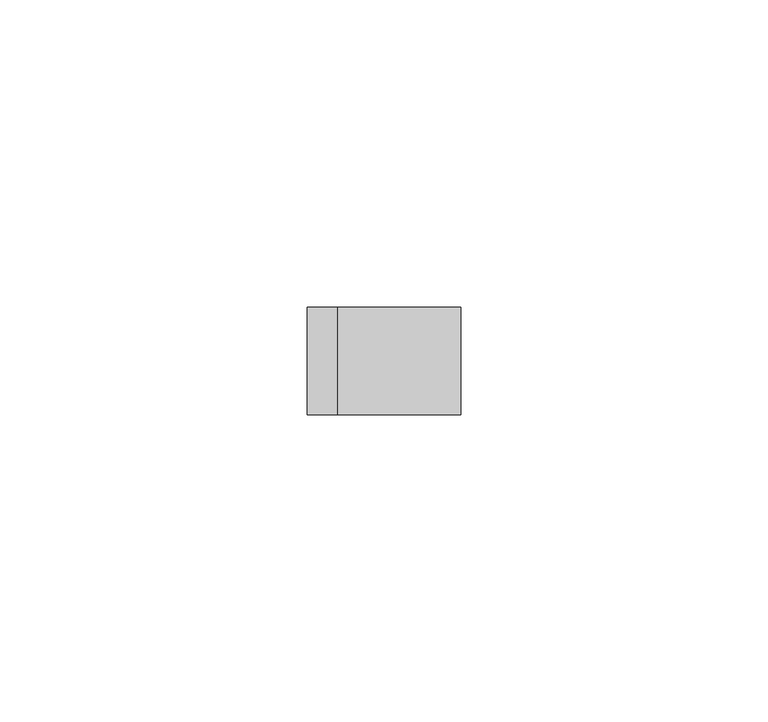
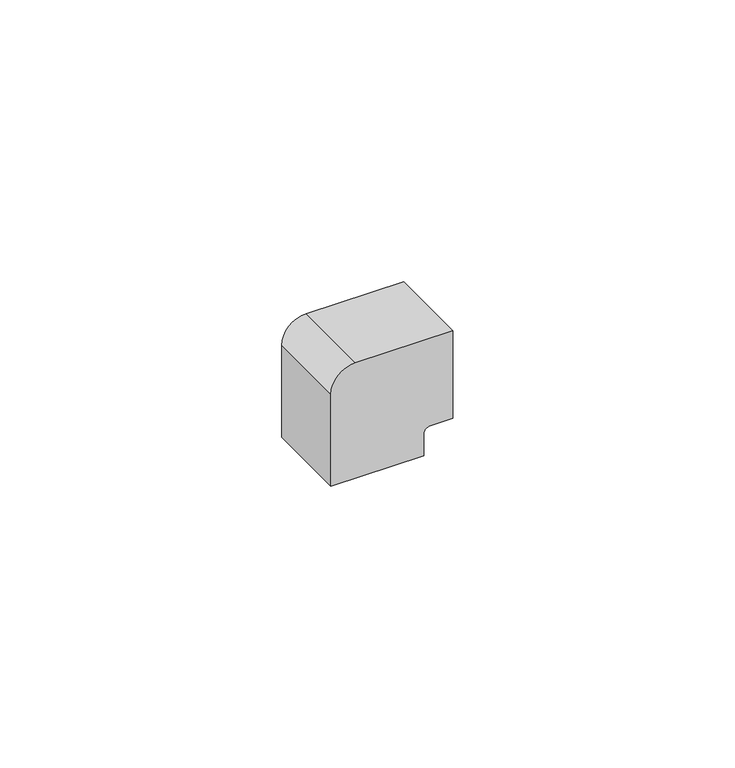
"""IFC4 building model written with IfcOpenShell, lengths in millimetres: proxy geometry, Поворот_на_90_гр.КМП : Поворот на 90 гр. КМП 16х16."""

from ifc_helpers import new_model, si_unit, point, frame, frame_2d, origin, place, context, project, spatial, polyline, circle_curve, trimmed, segment, composite_curve, outline, extrude, source, transform, mapped, element, save


def generic_models_debb7f3b(model_context):
    return source(origin(), model_context, "Body", "SweptSolid", [
        extrude(outline(composite_curve([segment(polyline([(2.0580612, -6.0), (6.7438905, -6.0)]), True, "CONTINUOUS"), segment(trimmed(circle_curve(frame_2d((6.7438905, -4.6858293)), 1.3141707), [point((6.7438905, -6.0))], [point((8.0580612, -4.6858293))], True, "CARTESIAN"), True, "CONTINUOUS"), segment(polyline([(8.0580612, -4.6858293), (8.0580612, 0.0), (27.0580612, 0.0), (27.0580612, -19.9954444)]), True, "CONTINUOUS"), segment(trimmed(circle_curve(frame_2d((22.0535056, -19.9954444)), 5.0045556), [point((27.0580612, -19.9954444))], [point((22.0535056, -25.0))], False, "CARTESIAN"), True, "CONTINUOUS"), segment(polyline([(22.0535056, -25.0), (2.0580612, -25.0), (2.0580612, -6.0)]), True, "CONTINUOUS")], self_intersect=False)), frame((0.0, -17.5, 0.0), z_axis=(0.0, 1.0, 0.0), x_axis=(0.0, 0.0, 1.0)), (0.0, 0.0, 1.0), 17.5),
    ])


if __name__ == "__main__":
    model = new_model("IFC4")
    model_context = context("Model", 3, world=origin())
    ifc_project = project(units=[si_unit("LENGTHUNIT", "METRE", prefix="MILLI")], contexts=[model_context])
    site = spatial("IfcSite", under=ifc_project)
    building = spatial("IfcBuilding", under=site)
    placement = place(None, origin())
    generic_models_shape = generic_models_debb7f3b(model_context)
    element("IfcBuildingElementProxy", 1, Name="Поворот_на_90_гр.КМП : Поворот на 90 гр. КМП 16х16", ObjectType="Поворот_на_90_гр.КМП : Поворот на 90 гр. КМП 16х16", at=placement, inside=building, context=model_context, shape_type="MappedRepresentation", body=[
        mapped(generic_models_shape, transform((0.0, 0.0, 0.0), x_axis=(1.0, 0.0, 0.0), y_axis=(0.0, 1.0, 0.0), z_axis=(0.0, 0.0, 1.0))),
    ])
    save(model, "model.ifc")
